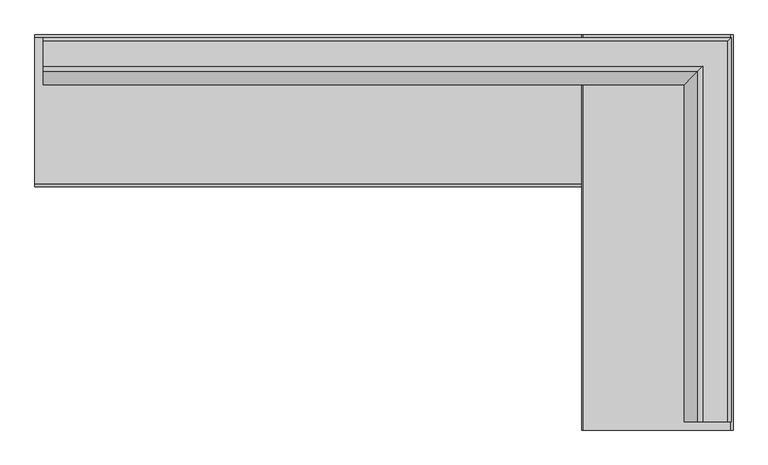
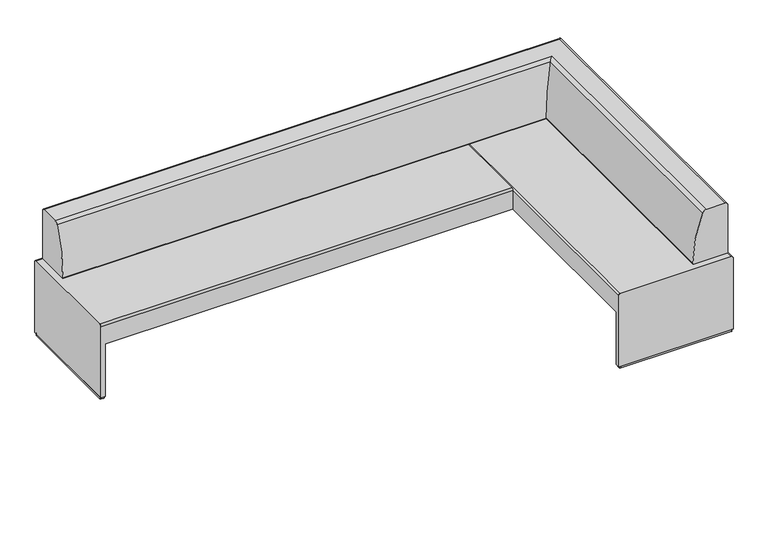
"""IFC4 building model written with IfcOpenShell, lengths in millimetres: furniture geometry, Steelcase Coalesse - Together - Seating - Bench - Right Corner : 1.5in Back Offset - 69.75D x 123.25W."""

from ifc_helpers import new_model, si_unit, point, frame, frame_2d, origin, origin_with_axes, place, context, project, spatial, polyline, circle_curve, ellipse_curve, trimmed, segment, composite_curve, outline, extrude, source, transform, mapped, element, save
from ifc_brep_helpers import plane_surface, cylinder_surface, advanced_brep


def furniture_684f7a78(model_context):
    return source(origin(), model_context, "Body", "SolidModel", [
        advanced_brep(
        [(774.5287475, 3679.1834745, 461.0687949), (764.3687475, 3679.1834745, 471.2287949), (103.5774354, 3679.1834745, 471.2287949), (95.2070699, 3679.1834745, 462.8584293), (95.2070699, 3679.1834745, 12.7976677), (774.5287475, 3679.1834745, 12.7976677), (95.2070699, 5450.8334745, 343.3718099), (95.2070699, 5450.8334745, 462.8584293), (103.5774354, 5450.8334745, 471.2287949), (764.3687475, 5450.8334745, 471.2287949), (774.5287475, 5450.8334745, 461.0687949), (774.5287475, 5450.8334745, 343.3718099), (774.5287475, 3705.1751879, 343.3718099), (432.8174347, 3749.5841192, 343.3718099), (95.2070699, 3705.1751879, 343.3718099), (774.5287475, 3705.1751879, 12.7976677), (95.2070699, 3705.1751879, 12.7976677), (432.8174347, 3749.5841192, 12.7976677)],
        [
            (0, 1, circle_curve(frame((764.3687475, 3679.1834745, 461.0687949), z_axis=(0.0, -1.0, 0.0), x_axis=(-1.0, 0.0, 0.0)), 10.16)),
            (1, 2),
            (2, 3, circle_curve(frame((103.5774354, 3679.1834745, 462.8584293), z_axis=(0.0, -1.0, 0.0), x_axis=(-1.0, 0.0, 0.0)), 8.3703656)),
            (3, 4),
            (4, 5),
            (5, 0),
            (6, 7),
            (7, 8, circle_curve(frame((103.5774354, 5450.8334745, 462.8584293), z_axis=(0.0, 1.0, 0.0), x_axis=(-1.0, 0.0, 0.0)), 8.3703656)),
            (8, 9),
            (9, 10, circle_curve(frame((764.3687475, 5450.8334745, 461.0687949), z_axis=(0.0, 1.0, 0.0), x_axis=(-1.0, 0.0, 0.0)), 10.16)),
            (10, 11),
            (11, 6),
            (11, 12),
            (12, 13),
            (13, 14),
            (14, 6),
            (5, 15),
            (15, 12),
            (10, 0),
            (9, 1),
            (8, 2),
            (7, 3),
            (14, 16),
            (16, 4),
            (17, 15),
            (16, 17),
            (13, 17),
        ],
        [
            plane_surface(frame((733.0421326, 3679.1834745, 343.3718099), z_axis=(0.0, -1.0, 0.0), x_axis=(1.0, 0.0, 0.0))),
            plane_surface(frame((733.0421326, 5450.8334745, 343.3718099), z_axis=(0.0, 1.0, 0.0), x_axis=(-1.0, 0.0, 0.0))),
            plane_surface(frame((95.2070699, 3679.1834745, 343.3718099), z_axis=(0.0, 0.0, -1.0), x_axis=(0.0, 1.0, 0.0))),
            plane_surface(frame((774.5287475, 3679.1834745, 343.3718099), z_axis=(1.0, 0.0, 0.0), x_axis=(0.0, 1.0, 0.0))),
            cylinder_surface(frame((764.3687475, 5450.8334745, 461.0687949), z_axis=(0.0, -1.0, 0.0), x_axis=(-1.0, 0.0, 0.0)), 10.16),
            plane_surface(frame((764.3687475, 3679.1834745, 471.2287949), z_axis=(0.0, 0.0, 1.0), x_axis=(0.0, 1.0, 0.0))),
            cylinder_surface(frame((103.5774354, 5450.8334745, 462.8584293), z_axis=(0.0, -1.0, 0.0), x_axis=(-1.0, 0.0, 0.0)), 8.3703656),
            plane_surface(frame((95.2070699, 3679.1834745, 462.8584293), z_axis=(-1.0, 0.0, 0.0), x_axis=(0.0, 1.0, 0.0))),
            plane_surface(frame((432.8174347, 3749.5841192, 12.7976677), z_axis=(0.0, 0.0, -1.0000000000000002), x_axis=(0.9914594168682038, 0.13041558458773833, 0.0))),
            plane_surface(frame((432.8174347, 3749.5841192, 343.3718099), z_axis=(-0.13041558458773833, 0.9914594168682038, 0.0), x_axis=(0.0, 0.0, -1.0))),
            plane_surface(frame((774.5287475, 3705.1751879, 343.3718099), z_axis=(0.12887659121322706, 0.991660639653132, 0.0), x_axis=(0.0, 0.0, -1.0))),
        ],
        [
            (0, [[1, 2, 3, 4, 5, 6]]),
            (1, [[7, 8, 9, 10, 11, 12]]),
            (2, [[-12, 13, 14, 15, 16]]),
            (3, [[-6, 17, 18, -13, -11, 19]]),
            (4, [[-1, -19, -10, 20]]),
            (5, [[-2, -20, -9, 21]]),
            (6, [[-3, -21, -8, 22]]),
            (7, [[-4, -22, -7, -16, 23, 24]]),
            (8, [[25, -17, -5, -24, 26]]),
            (9, [[-26, -23, -15, 27]]),
            (10, [[-25, -27, -14, -18]]),
        ],
    ),
        advanced_brep(
        [(-2356.0212525, 4783.2670813, 471.2287949), (-2356.0212525, 5438.3536785, 471.2287949), (-2356.0212525, 5451.0536785, 458.5287949), (-2356.0212525, 5451.0536785, 12.7976677), (-2356.0212525, 4770.5670813, 12.7976677), (-2356.0212525, 4770.5670813, 458.5287949), (95.2070699, 4783.2670813, 471.2287949), (95.2070699, 4770.5670813, 458.5287949), (95.2070699, 4770.5670813, 343.3718099), (95.2070699, 5451.0536785, 343.3718099), (95.2070699, 5451.0536785, 458.5287949), (95.2070699, 5438.3536785, 471.2287949), (-2330.1515245, 5451.0536785, 343.3718099), (-2330.1525858, 5451.0536785, 12.7976677), (-2329.8455542, 4770.5670813, 343.3718099), (-2285.5129721, 5108.4198031, 343.3718099), (-2329.8444726, 4770.5670813, 12.7976677), (-2285.5129721, 5108.4198031, 12.7976677)],
        [
            (0, 1),
            (1, 2, circle_curve(frame((-2356.0212525, 5438.3536785, 458.5287949), z_axis=(-1.0, 0.0, 0.0), x_axis=(0.0, 1.0, 0.0)), 12.7)),
            (2, 3),
            (3, 4),
            (4, 5),
            (5, 0, circle_curve(frame((-2356.0212525, 4783.2670813, 458.5287949), z_axis=(-1.0, 0.0, 0.0), x_axis=(0.0, 1.0, 0.0)), 12.7)),
            (6, 7, circle_curve(frame((95.2070699, 4783.2670813, 458.5287949), z_axis=(1.0, 0.0, 0.0), x_axis=(0.0, 1.0, 0.0)), 12.7)),
            (7, 8),
            (8, 9),
            (9, 10),
            (10, 11, circle_curve(frame((95.2070699, 5438.3536785, 458.5287949), z_axis=(1.0, 0.0, 0.0), x_axis=(0.0, 1.0, 0.0)), 12.7)),
            (11, 6),
            (0, 6),
            (11, 1),
            (10, 2),
            (9, 12),
            (12, 13),
            (13, 3),
            (8, 14),
            (14, 15),
            (15, 12),
            (4, 16),
            (16, 14),
            (7, 5),
            (17, 16),
            (13, 17),
            (15, 17),
        ],
        [
            plane_surface(frame((-2356.0212525, 5450.8334745, 471.2287949), z_axis=(-1.0, 0.0, 0.0), x_axis=(0.0, 1.0, 0.0))),
            plane_surface(frame((95.2070699, 5450.8334745, 471.2287949), z_axis=(1.0, 0.0, 0.0), x_axis=(0.0, -1.0, 0.0))),
            plane_surface(frame((-2356.0212525, 4783.2670813, 471.2287949), z_axis=(0.0, 0.0, 1.0), x_axis=(1.0, 0.0, 0.0))),
            cylinder_surface(frame((95.2070699, 5438.3536785, 458.5287949), z_axis=(-1.0, 0.0, 0.0), x_axis=(0.0, 1.0, 0.0)), 12.7),
            plane_surface(frame((-2356.0212525, 5451.0536785, 458.5287949), z_axis=(0.0, 1.0, 0.0), x_axis=(1.0, 0.0, 0.0))),
            plane_surface(frame((-2356.0212525, 5451.0536785, 343.3718099), z_axis=(0.0, 0.0, -1.0), x_axis=(1.0, 0.0, 0.0))),
            plane_surface(frame((-2356.0212525, 4770.5670813, 343.3718099), z_axis=(0.0, -1.0, 0.0), x_axis=(1.0, 0.0, 0.0))),
            cylinder_surface(frame((95.2070699, 4783.2670813, 458.5287949), z_axis=(-1.0, 0.0, 0.0), x_axis=(0.0, 1.0, 0.0)), 12.7),
            plane_surface(frame((-2330.1525858, 5451.0618248, 12.7976677), z_axis=(0.0, 0.0, -1.0), x_axis=(0.12918886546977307, -0.9916200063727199, 0.0))),
            plane_surface(frame((-2285.5129721, 5108.4198031, 343.3718099), z_axis=(0.9916200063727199, 0.12918886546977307, 0.0), x_axis=(0.0, 0.0, -1.0))),
            plane_surface(frame((-2329.8444726, 4770.5753245, 343.3718099), z_axis=(0.9915004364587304, -0.1301033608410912, 0.0), x_axis=(0.0, 0.0, -1.0))),
        ],
        [
            (0, [[1, 2, 3, 4, 5, 6]]),
            (1, [[7, 8, 9, 10, 11, 12]]),
            (2, [[-1, 13, -12, 14]]),
            (3, [[-2, -14, -11, 15]]),
            (4, [[-3, -15, -10, 16, 17, 18]]),
            (5, [[-9, 19, 20, 21, -16]]),
            (6, [[-5, 22, 23, -19, -8, 24]]),
            (7, [[-6, -24, -7, -13]]),
            (8, [[25, -22, -4, -18, 26]]),
            (9, [[-26, -17, -21, 27]]),
            (10, [[-25, -27, -20, -23]]),
        ],
    ),
        extrude(outline(composite_curve([segment(polyline([(-2285.9689643, 5113.2843855), (-2330.9693515, 4782.1665875)]), True, "CONTINUOUS"), segment(trimmed(circle_curve(frame_2d((-2337.2615092, 4783.0217198)), 6.35), [point((-2330.9693515, 4782.1665875))], [point((-2337.2666959, 4776.6717219))], False, "CARTESIAN"), True, "CONTINUOUS"), segment(polyline([(-2337.2666959, 4776.6717219), (-2349.7239607, 4776.6818969)]), True, "CONTINUOUS"), segment(trimmed(circle_curve(frame_2d((-2349.718774, 4783.0318948)), 6.35), [point((-2349.7239607, 4776.6818969))], [point((-2356.0687719, 4783.0370815))], False, "CARTESIAN"), True, "CONTINUOUS"), segment(polyline([(-2356.0687719, 4783.0370815), (-2355.5332557, 5438.6681616)]), True, "CONTINUOUS"), segment(trimmed(circle_curve(frame_2d((-2349.1832578, 5438.6629749)), 6.35), [point((-2355.5332557, 5438.6681616))], [point((-2349.1780712, 5445.0129728))], False, "CARTESIAN"), True, "CONTINUOUS"), segment(polyline([(-2349.1780712, 5445.0129728), (-2336.6550538, 5445.0027441)]), True, "CONTINUOUS"), segment(trimmed(circle_curve(frame_2d((-2336.6607966, 5437.9717942)), 7.0309522), [point((-2336.6550538, 5445.0027441))], [point((-2329.6923843, 5438.9074858))], False, "CARTESIAN"), True, "CONTINUOUS"), segment(polyline([(-2329.6923843, 5438.9074858), (-2285.9689643, 5113.2843855)]), True, "CONTINUOUS")], self_intersect=False)), origin_with_axes(), (0.0, 0.0, 1.0), 12.7976677),
        extrude(outline(composite_curve([segment(polyline([(437.4499039, 5381.2236386), (106.2954602, 5425.9535555)]), True, "CONTINUOUS"), segment(trimmed(circle_curve(frame_2d((107.1454529, 5432.2464096)), 6.35), [point((106.2954602, 5425.9535555))], [point((100.7954529, 5432.2464096))], False, "CARTESIAN"), True, "CONTINUOUS"), segment(polyline([(100.7954529, 5432.2464096), (100.7954529, 5444.7036785)]), True, "CONTINUOUS"), segment(trimmed(circle_curve(frame_2d((107.1454529, 5444.7036785)), 6.35), [point((100.7954529, 5444.7036785))], [point((107.1454529, 5451.0536785))], False, "CARTESIAN"), True, "CONTINUOUS"), segment(polyline([(107.1454529, 5451.0536785), (762.7767517, 5451.0536785)]), True, "CONTINUOUS"), segment(trimmed(circle_curve(frame_2d((762.7767517, 5444.7036785)), 6.35), [point((762.7767517, 5451.0536785))], [point((769.1267517, 5444.7036785))], False, "CARTESIAN"), True, "CONTINUOUS"), segment(polyline([(769.1267517, 5444.7036785), (769.1267517, 5432.180657)]), True, "CONTINUOUS"), segment(trimmed(circle_curve(frame_2d((762.0957995, 5432.180657)), 7.0309522), [point((769.1267517, 5432.180657))], [point((763.0371826, 5425.2130112))], False, "CARTESIAN"), True, "CONTINUOUS"), segment(polyline([(763.0371826, 5425.2130112), (437.4499039, 5381.2236386)]), True, "CONTINUOUS")], self_intersect=False)), origin_with_axes(), (0.0, 0.0, 1.0), 12.7976677),
        extrude(outline(composite_curve([segment(polyline([(437.4499039, 3749.8966001), (763.0371826, 3705.9072274)]), True, "CONTINUOUS"), segment(trimmed(circle_curve(frame_2d((762.0957995, 3698.9395817)), 7.0309522), [point((763.0371826, 3705.9072274))], [point((769.1267517, 3698.9395817))], False, "CARTESIAN"), True, "CONTINUOUS"), segment(polyline([(769.1267517, 3698.9395817), (769.1267517, 3686.4165601)]), True, "CONTINUOUS"), segment(trimmed(circle_curve(frame_2d((762.7767517, 3686.4165601)), 6.35), [point((769.1267517, 3686.4165601))], [point((762.7767517, 3680.0665601))], False, "CARTESIAN"), True, "CONTINUOUS"), segment(polyline([(762.7767517, 3680.0665601), (107.1454529, 3680.0665601)]), True, "CONTINUOUS"), segment(trimmed(circle_curve(frame_2d((107.1454529, 3686.4165601)), 6.35), [point((107.1454529, 3680.0665601))], [point((100.7954529, 3686.4165601))], False, "CARTESIAN"), True, "CONTINUOUS"), segment(polyline([(100.7954529, 3686.4165601), (100.7954529, 3698.8738291)]), True, "CONTINUOUS"), segment(trimmed(circle_curve(frame_2d((107.1454529, 3698.8738291)), 6.35), [point((100.7954529, 3698.8738291))], [point((106.2954602, 3705.1666831))], False, "CARTESIAN"), True, "CONTINUOUS"), segment(polyline([(106.2954602, 3705.1666831), (437.4499039, 3749.8966001)]), True, "CONTINUOUS")], self_intersect=False)), origin_with_axes(), (0.0, 0.0, 1.0), 12.7976677),
        extrude(outline(polyline([(432.8174347, 5380.6530339), (95.2070699, 5425.0619651), (95.2070699, 5451.0536785), (774.6302917, 5451.0536785), (774.6302917, 5425.0751618), (432.8174347, 5380.6530339)])), frame((0.0, 0.0, 12.7976677), z_axis=(0.0, 0.0, 1.0), x_axis=(1.0, 0.0, 0.0)), (0.0, 0.0, 1.0), 330.5741422),
        advanced_brep(
        [(637.9650651, 3717.2834745, 789.6908243), (617.0761552, 3717.2834745, 775.9296487), (556.0897813, 3717.2834745, 477.5628851), (562.4397614, 3717.2834745, 471.2287949), (765.057783, 3717.2834745, 471.2287949), (765.819783, 3717.2834745, 471.9907949), (765.819783, 3717.2834745, 774.0501793), (750.179138, 3717.2834745, 789.6908243), (637.9650651, 5309.7765091, 789.6908243), (617.0761552, 5288.8875992, 775.9296487), (556.0897813, 5227.9012254, 477.5628851), (562.4397614, 5234.2512054, 471.2287949), (-2317.9212525, 5234.2512054, 471.2287949), (-2317.9212525, 5436.869227, 471.2287949), (765.057783, 5436.869227, 471.2287949), (765.819783, 5437.631227, 471.9907949), (765.819783, 5437.631227, 774.0501793), (750.179138, 5421.990582, 789.6908243), (-2317.9212525, 5421.990582, 789.6908243), (-2317.9212525, 5309.7765091, 789.6908243), (-2317.9212525, 5437.631227, 774.0501793), (-2317.9212525, 5437.631227, 471.9907949), (-2317.9212525, 5227.9012254, 477.5628851), (-2317.9212525, 5288.8875992, 775.9296487)],
        [
            (0, 1, circle_curve(frame((637.9650651, 3717.2834745, 766.9559749), z_axis=(0.0, -1.0, 0.0), x_axis=(-1.0, 0.0, 0.0)), 22.7348495)),
            (1, 2, circle_curve(frame((1307.2331615, 3717.2834745, 479.4448666), z_axis=(0.0, -1.0, 0.0), x_axis=(-1.0, 0.0, 0.0)), 751.1457378)),
            (2, 3, circle_curve(frame((562.4397614, 3717.2834745, 477.5787949), z_axis=(0.0, -1.0, 0.0), x_axis=(-1.0, 0.0, 0.0)), 6.35)),
            (3, 4),
            (4, 5, circle_curve(frame((765.057783, 3717.2834745, 471.9907949), z_axis=(0.0, -1.0, 0.0), x_axis=(-1.0, 0.0, 0.0)), 0.762)),
            (5, 6),
            (6, 7, circle_curve(frame((750.179138, 3717.2834745, 774.0501793), z_axis=(0.0, -1.0, 0.0), x_axis=(-1.0, 0.0, 0.0)), 15.6406451)),
            (7, 0),
            (0, 8),
            (8, 9, ellipse_curve(frame((637.9650651, 5309.7765091, 766.9559749), z_axis=(0.7071067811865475, -0.7071067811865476, 0.0), x_axis=(-0.7071067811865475, -0.7071067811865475, 0.0)), 32.1519324, 22.7348495)),
            (9, 1),
            (9, 10, ellipse_curve(frame((1307.2331615, 5979.0446055, 479.4448666), z_axis=(0.7071067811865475, -0.7071067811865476, 0.0), x_axis=(-0.7071067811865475, -0.7071067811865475, 0.0)), 1062.2804897, 751.1457378)),
            (10, 2),
            (10, 11, ellipse_curve(frame((562.4397614, 5234.2512054, 477.5787949), z_axis=(0.7071067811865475, -0.7071067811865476, 0.0), x_axis=(-0.7071067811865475, -0.7071067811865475, 0.0)), 8.9802561, 6.35)),
            (11, 3),
            (11, 12),
            (12, 13),
            (13, 14),
            (14, 4),
            (14, 15, ellipse_curve(frame((765.057783, 5436.869227, 471.9907949), z_axis=(0.7071067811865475, -0.7071067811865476, 0.0), x_axis=(-0.7071067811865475, -0.7071067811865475, 0.0)), 1.0776307, 0.762)),
            (15, 5),
            (15, 16),
            (16, 6),
            (16, 17, ellipse_curve(frame((750.179138, 5421.990582, 774.0501793), z_axis=(0.7071067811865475, -0.7071067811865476, 0.0), x_axis=(-0.7071067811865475, -0.7071067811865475, 0.0)), 22.1192124, 15.6406451)),
            (17, 7),
            (17, 18),
            (18, 19),
            (19, 8),
            (18, 20, circle_curve(frame((-2317.9212525, 5421.990582, 774.0501793), z_axis=(-1.0, 0.0, 0.0), x_axis=(0.0, -1.0, 0.0)), 15.6406451)),
            (20, 21),
            (21, 13, circle_curve(frame((-2317.9212525, 5436.869227, 471.9907949), z_axis=(-1.0, 0.0, 0.0), x_axis=(0.0, -1.0, 0.0)), 0.762)),
            (12, 22, circle_curve(frame((-2317.9212525, 5234.2512054, 477.5787949), z_axis=(-1.0, 0.0, 0.0), x_axis=(0.0, -1.0, 0.0)), 6.35)),
            (22, 23, circle_curve(frame((-2317.9212525, 5979.0446055, 479.4448666), z_axis=(-1.0, 0.0, 0.0), x_axis=(0.0, -1.0, 0.0)), 751.1457378)),
            (23, 19, circle_curve(frame((-2317.9212525, 5309.7765091, 766.9559749), z_axis=(-1.0, 0.0, 0.0), x_axis=(0.0, -1.0, 0.0)), 22.7348495)),
            (23, 9),
            (22, 10),
            (21, 15),
            (20, 16),
        ],
        [
            plane_surface(frame((555.2553454, 3717.2834745, 0.0), z_axis=(0.0, -1.0, 0.0), x_axis=(0.0, 0.0, 1.0))),
            cylinder_surface(frame((637.9650651, 3717.2834745, 766.9559749), z_axis=(0.0, -1.0, 0.0), x_axis=(-1.0, 0.0, 0.0)), 22.7348495),
            cylinder_surface(frame((1307.2331615, 3717.2834745, 479.4448666), z_axis=(0.0, -1.0, 0.0), x_axis=(-1.0, 0.0, 0.0)), 751.1457378),
            cylinder_surface(frame((562.4397614, 3717.2834745, 477.5787949), z_axis=(0.0, -1.0, 0.0), x_axis=(-1.0, 0.0, 0.0)), 6.35),
            plane_surface(frame((562.4397614, 3717.2834745, 471.2287949), z_axis=(0.0, 0.0, -1.0), x_axis=(0.0, 1.0, 0.0))),
            cylinder_surface(frame((765.057783, 3717.2834745, 471.9907949), z_axis=(0.0, -1.0, 0.0), x_axis=(-1.0, 0.0, 0.0)), 0.762),
            plane_surface(frame((765.819783, 3717.2834745, 471.9907949), z_axis=(1.0, 0.0, 0.0), x_axis=(0.0, 1.0, 0.0))),
            cylinder_surface(frame((750.179138, 3717.2834745, 774.0501793), z_axis=(0.0, -1.0, 0.0), x_axis=(-1.0, 0.0, 0.0)), 15.6406451),
            plane_surface(frame((750.179138, 3717.2834745, 789.6908243), z_axis=(0.0, 0.0, 1.0), x_axis=(0.0, 1.0, 0.0))),
            plane_surface(frame((-2317.9212525, 5227.0667894, 0.0), z_axis=(-1.0, 0.0, 0.0), x_axis=(0.0, 0.0, 1.0))),
            cylinder_surface(frame((555.2553454, 5309.7765091, 766.9559749), z_axis=(1.0, 0.0, 0.0), x_axis=(0.0, -1.0, 0.0)), 22.7348495),
            cylinder_surface(frame((555.2553454, 5979.0446055, 479.4448666), z_axis=(1.0, 0.0, 0.0), x_axis=(0.0, -1.0, 0.0)), 751.1457378),
            cylinder_surface(frame((555.2553454, 5234.2512054, 477.5787949), z_axis=(1.0, 0.0, 0.0), x_axis=(0.0, -1.0, 0.0)), 6.35),
            cylinder_surface(frame((555.2553454, 5436.869227, 471.9907949), z_axis=(1.0, 0.0, 0.0), x_axis=(0.0, -1.0, 0.0)), 0.762),
            plane_surface(frame((765.819783, 5437.631227, 471.9907949), z_axis=(0.0, 1.0, 0.0), x_axis=(-1.0, 0.0, 0.0))),
            cylinder_surface(frame((555.2553454, 5421.990582, 774.0501793), z_axis=(1.0, 0.0, 0.0), x_axis=(0.0, -1.0, 0.0)), 15.6406451),
        ],
        [
            (0, [[1, 2, 3, 4, 5, 6, 7, 8]]),
            (1, [[-1, 9, 10, 11]]),
            (2, [[-2, -11, 12, 13]]),
            (3, [[-3, -13, 14, 15]]),
            (4, [[-4, -15, 16, 17, 18, 19]]),
            (5, [[-5, -19, 20, 21]]),
            (6, [[-6, -21, 22, 23]]),
            (7, [[-7, -23, 24, 25]]),
            (8, [[-8, -25, 26, 27, 28, -9]]),
            (9, [[-27, 29, 30, 31, -17, 32, 33, 34]]),
            (10, [[-10, -28, -34, 35]]),
            (11, [[-12, -35, -33, 36]]),
            (12, [[-14, -36, -32, -16]]),
            (13, [[-20, -18, -31, 37]]),
            (14, [[-22, -37, -30, 38]]),
            (15, [[-24, -38, -29, -26]]),
        ],
    ),
    ])


if __name__ == "__main__":
    model = new_model("IFC4")
    model_context = context("Model", 3, world=origin())
    ifc_project = project(units=[si_unit("LENGTHUNIT", "METRE", prefix="MILLI")], contexts=[model_context])
    site = spatial("IfcSite", under=ifc_project)
    building = spatial("IfcBuilding", under=site)
    placement = place(None, origin())
    furniture_shape = furniture_684f7a78(model_context)
    element("IfcFurniture", 1, ObjectType="Steelcase Coalesse - Together - Seating - Bench - Right Corner : 1.5in Back Offset - 69.75D x 123.25W", at=placement, inside=building, context=model_context, shape_type="MappedRepresentation", body=[
        mapped(furniture_shape, transform((0.0, 0.0, 0.0), x_axis=(1.0, 0.0, 0.0), y_axis=(0.0, 1.0, 0.0), z_axis=(0.0, 0.0, 1.0))),
    ])
    save(model, "model.ifc")
